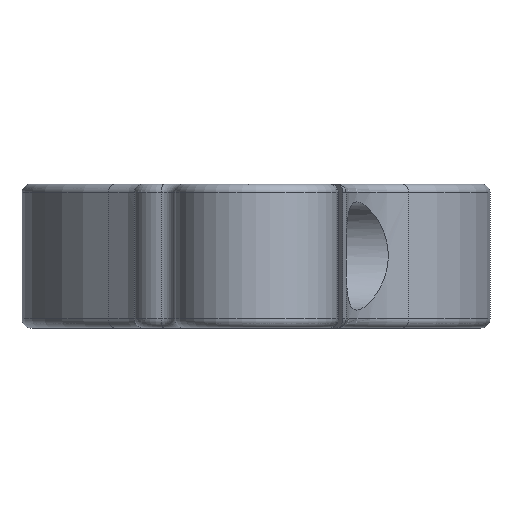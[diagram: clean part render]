
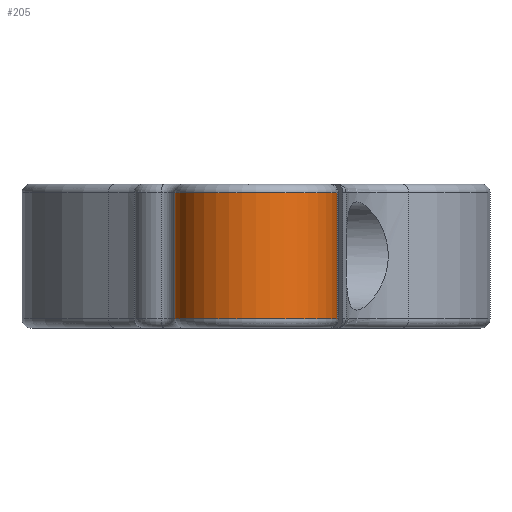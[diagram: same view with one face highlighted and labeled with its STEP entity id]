
A CAD part, front view. The second image highlights one B-rep face of the part: STEP entity #205.
In plain terms, the highlighted cylindrical face has radius 4.5 mm (diameter 9 mm), a partial arc.
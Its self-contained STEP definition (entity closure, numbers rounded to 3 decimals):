
#53 = EDGE_CURVE ( 'NONE', #1629, #1599, #1768, .T. ) ;
#62 = EDGE_CURVE ( 'NONE', #2721, #1599, #328, .T. ) ;
#63 = EDGE_CURVE ( 'NONE', #2650, #2721, #1798, .T. ) ;
#64 = EDGE_CURVE ( 'NONE', #1629, #2650, #329, .T. ) ;
#205 = ADVANCED_FACE ( 'NONE', ( #1169 ), #1174, .T. ) ;
#328 = CIRCLE ( 'NONE', #2577, 4.5 ) ;
#329 = CIRCLE ( 'NONE', #2573, 4.5 ) ;
#652 = CARTESIAN_POINT ( 'NONE',  ( 4.5, -22.5, 0.5 ) ) ;
#682 = CARTESIAN_POINT ( 'NONE',  ( 4.5, -22.5, 7.5 ) ) ;
#718 = CARTESIAN_POINT ( 'NONE',  ( -4.5, -22.531, 7.5 ) ) ;
#724 = CARTESIAN_POINT ( 'NONE',  ( -4.5, -22.531, 0.5 ) ) ;
#1169 = FACE_OUTER_BOUND ( 'NONE', #1488, .T. ) ;
#1173 = AXIS2_PLACEMENT_3D ( 'NONE', #2322, #2323, #2324 ) ;
#1174 = CYLINDRICAL_SURFACE ( 'NONE', #1173, 4.5 ) ;
#1488 = EDGE_LOOP ( 'NONE', ( #2713, #2690, #2688, #2674 ) ) ;
#1599 = VERTEX_POINT ( 'NONE', #652 ) ;
#1629 = VERTEX_POINT ( 'NONE', #682 ) ;
#1768 = LINE ( 'NONE', #1769, #2634 ) ;
#1769 = CARTESIAN_POINT ( 'NONE',  ( 4.5, -22.5, 8. ) ) ;
#1770 = DIRECTION ( 'NONE',  ( 0., 0., -1. ) ) ;
#1794 = CARTESIAN_POINT ( 'NONE',  ( 0., -22.5, 0.5 ) ) ;
#1795 = DIRECTION ( 'NONE',  ( 0., 0., 1. ) ) ;
#1796 = DIRECTION ( 'NONE',  ( 1., 0., 0. ) ) ;
#1797 = CARTESIAN_POINT ( 'NONE',  ( 0., -22.5, 7.5 ) ) ;
#1798 = LINE ( 'NONE', #1799, #2572 ) ;
#1799 = CARTESIAN_POINT ( 'NONE',  ( -4.5, -22.531, 8. ) ) ;
#1800 = DIRECTION ( 'NONE',  ( 0., 0., -1. ) ) ;
#1801 = DIRECTION ( 'NONE',  ( 0., 0., -1. ) ) ;
#1802 = DIRECTION ( 'NONE',  ( 1., 0., 0. ) ) ;
#2322 = CARTESIAN_POINT ( 'NONE',  ( 0., -22.5, 8. ) ) ;
#2323 = DIRECTION ( 'NONE',  ( 0., 0., -1. ) ) ;
#2324 = DIRECTION ( 'NONE',  ( -1., 0., 0. ) ) ;
#2572 = VECTOR ( 'NONE', #1800, 1000. ) ;
#2573 = AXIS2_PLACEMENT_3D ( 'NONE', #1797, #1801, #1802 ) ;
#2577 = AXIS2_PLACEMENT_3D ( 'NONE', #1794, #1795, #1796 ) ;
#2634 = VECTOR ( 'NONE', #1770, 1000. ) ;
#2650 = VERTEX_POINT ( 'NONE', #718 ) ;
#2674 = ORIENTED_EDGE ( 'NONE', *, *, #64, .T. ) ;
#2688 = ORIENTED_EDGE ( 'NONE', *, *, #53, .F. ) ;
#2690 = ORIENTED_EDGE ( 'NONE', *, *, #62, .T. ) ;
#2713 = ORIENTED_EDGE ( 'NONE', *, *, #63, .T. ) ;
#2721 = VERTEX_POINT ( 'NONE', #724 ) ;
